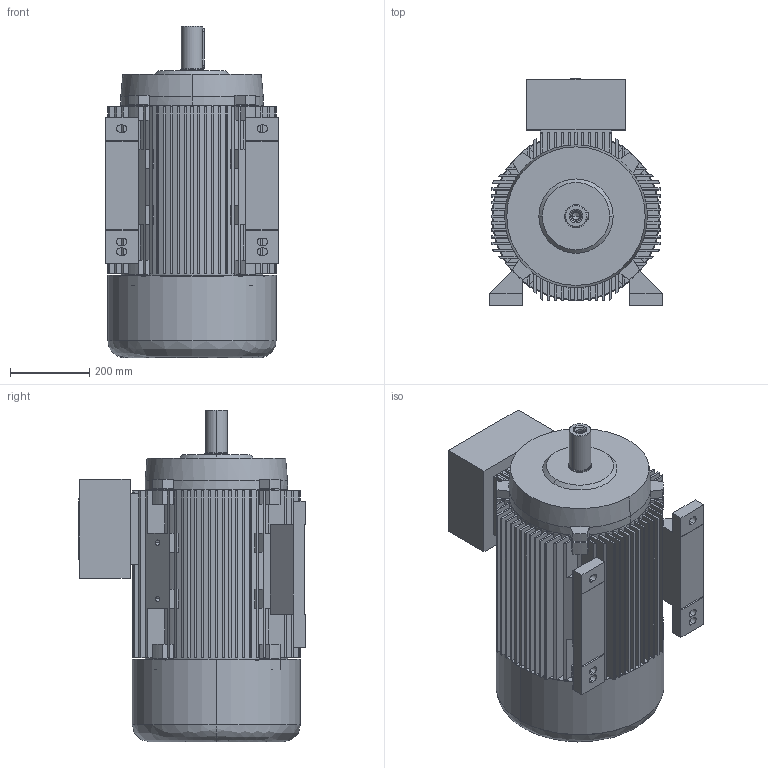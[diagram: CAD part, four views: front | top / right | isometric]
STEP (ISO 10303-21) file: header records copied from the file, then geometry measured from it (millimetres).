
FILE_DESCRIPTION (( 'STEP AP203' ), '1' );
FILE_NAME ('20.18372_A 7AZ 225S & M - 2 B3 STANDK.STEP', '2018-03-30T07:20:07', ( '' ), ( '' ), 'SwSTEP 2.0', 'SolidWorks 2017', '' );
FILE_SCHEMA (( 'CONFIG_CONTROL_DESIGN' ));
Length unit declared in the file: millimetre
Products named in the file (1): 20.18372_A  7AZ 225S & M - 2 B3 STANDK
Bounding box: 436 x 573 x 838 mm (x, y, z)
Volume: 35259326.1 mm3; surface area: 5337121.5 mm2
Topology: 12 solids, 15 shells, 844 faces, 2260 edges, 1484 vertices
Faces by surface type: plane 669, cylinder 124, cone 38, bspline 13
Entity records: 26943 total; most frequent: CARTESIAN_POINT 5480, ORIENTED_EDGE 4484, DIRECTION 4367, EDGE_CURVE 2242, VECTOR 1697, LINE 1697, VERTEX_POINT 1484, AXIS2_PLACEMENT_3D 1335
